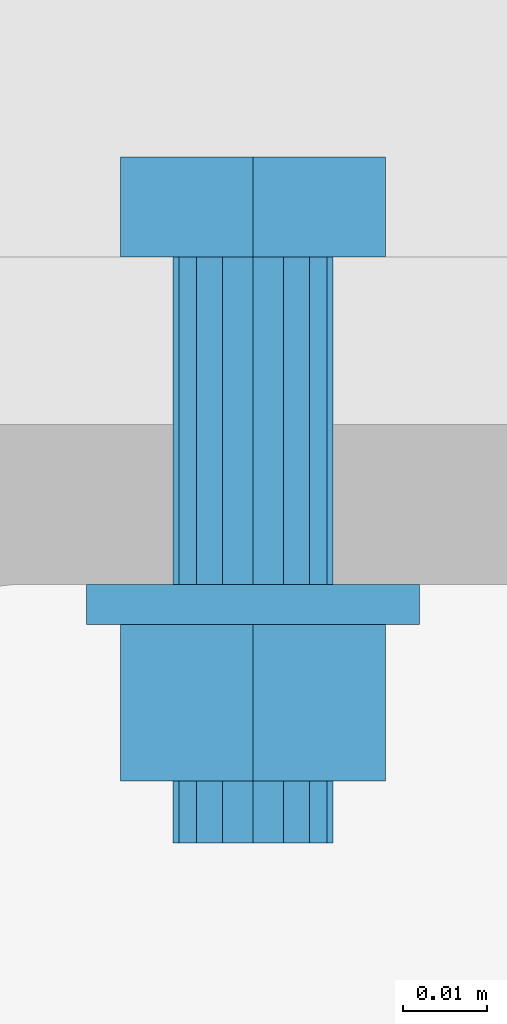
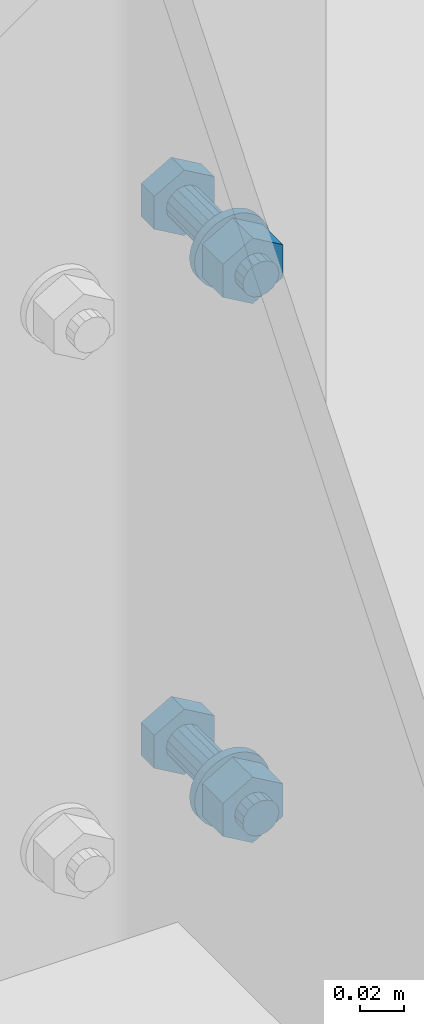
# Not in any storey, part 23 of 51: 2 mechanical fasteners.
"""IFC4 model written with IfcOpenShell, lengths in feet."""

from ifc_helpers import new_model, entity, si_unit, converted_unit, direction, origin, origin_with_axes, place, context, project, spatial, faceted_brep, element, save


model = new_model("IFC4")

# Units and contexts
model_context = context("Model", 3, precision=0.0001, world=origin(), true_north=direction((6.123233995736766e-17, 1.0)))
ifc_project = project(units=[converted_unit("LENGTHUNIT", "FOOT", entity("IfcLengthMeasure", 0.3048), si_unit("LENGTHUNIT", "METRE"), dimensions=[1, 0, 0, 0, 0, 0, 0]), converted_unit("AREAUNIT", "SQUARE INCH", entity("IfcAreaMeasure", 0.0006451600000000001), si_unit("AREAUNIT", "SQUARE_METRE"), dimensions=[2, 0, 0, 0, 0, 0, 0]), converted_unit("PLANEANGLEUNIT", "DEGREE", entity("IfcPlaneAngleMeasure", 0.017453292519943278), si_unit("PLANEANGLEUNIT", "RADIAN"), dimensions=[0, 0, 0, 0, 0, 0, 0]), si_unit("VOLUMEUNIT", "CUBIC_METRE")], contexts=[model_context])

# Site
site_placement = place(None, origin())
site = spatial("IfcSite", under=ifc_project, at=site_placement, Name="Default", CompositionType="ELEMENT")

# Mechanical fasteners
mechanical_fastener_1_placement = place(site_placement, origin_with_axes())
element("IfcMechanicalFastener", 1, at=mechanical_fastener_1_placement, inside=site, ObjectType="Bolt#7", NominalDiameter=0.0625, NominalLength=0.22916666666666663, context=model_context, shape_type="Brep", body=[
    faceted_brep([(60.56029721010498, 6.28730066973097, 17.178057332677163), (60.56029721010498, 6.326363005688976, 17.178057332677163), (60.61216852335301, 6.326363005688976, 17.148109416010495), (60.61216852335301, 6.28730066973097, 17.148109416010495), (60.66403983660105, 6.326363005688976, 17.178057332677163), (60.66403983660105, 6.28730066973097, 17.178057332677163), (60.66403983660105, 6.326363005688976, 17.2379531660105), (60.66403983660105, 6.28730066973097, 17.2379531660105), (60.61216852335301, 6.326363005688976, 17.267901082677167), (60.61216852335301, 6.28730066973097, 17.267901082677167), (60.56029721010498, 6.326363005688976, 17.2379531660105), (60.56029721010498, 6.28730066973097, 17.2379531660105)], [[[0, 1, 2, 3]], [[3, 2, 4, 5]], [[5, 4, 6, 7]], [[7, 6, 8, 9]], [[9, 8, 10, 11]], [[11, 10, 1, 0]], [[4, 2, 1, 10, 8, 6]], [[0, 3, 5, 7, 9, 11]]]),
    faceted_brep([(60.64341852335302, 6.28730066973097, 17.20800524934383), (60.64341852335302, 6.159183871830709, 17.20800524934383), (60.64103975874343, 6.159183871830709, 17.196046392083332), (60.64103975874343, 6.28730066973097, 17.196046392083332), (60.63426561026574, 6.159183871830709, 17.185908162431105), (60.63426561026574, 6.28730066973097, 17.185908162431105), (60.624127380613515, 6.159183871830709, 17.17913401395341), (60.624127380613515, 6.28730066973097, 17.17913401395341), (60.61216852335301, 6.159183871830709, 17.17675524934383), (60.61216852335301, 6.28730066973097, 17.17675524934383), (60.60020966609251, 6.159183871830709, 17.17913401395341), (60.60020966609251, 6.28730066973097, 17.17913401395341), (60.59007143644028, 6.159183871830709, 17.185908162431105), (60.59007143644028, 6.28730066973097, 17.185908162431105), (60.583297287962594, 6.159183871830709, 17.196046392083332), (60.583297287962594, 6.28730066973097, 17.196046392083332), (60.58091852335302, 6.159183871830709, 17.20800524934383), (60.58091852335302, 6.28730066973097, 17.20800524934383), (60.583297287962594, 6.159183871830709, 17.21996410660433), (60.583297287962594, 6.28730066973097, 17.21996410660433), (60.59007143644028, 6.159183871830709, 17.23010233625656), (60.59007143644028, 6.28730066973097, 17.23010233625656), (60.60020966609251, 6.159183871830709, 17.236876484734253), (60.60020966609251, 6.28730066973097, 17.236876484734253), (60.61216852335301, 6.159183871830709, 17.23925524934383), (60.61216852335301, 6.28730066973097, 17.23925524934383), (60.624127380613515, 6.159183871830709, 17.236876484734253), (60.624127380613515, 6.28730066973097, 17.236876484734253), (60.63426561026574, 6.159183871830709, 17.23010233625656), (60.63426561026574, 6.28730066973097, 17.23010233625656), (60.64103975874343, 6.159183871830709, 17.21996410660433), (60.64103975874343, 6.28730066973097, 17.21996410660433)], [[[0, 1, 2, 3]], [[3, 2, 4, 5]], [[5, 4, 6, 7]], [[7, 6, 8, 9]], [[9, 8, 10, 11]], [[11, 10, 12, 13]], [[13, 12, 14, 15]], [[15, 14, 16, 17]], [[17, 16, 18, 19]], [[19, 18, 20, 21]], [[21, 20, 22, 23]], [[23, 22, 24, 25]], [[25, 24, 26, 27]], [[27, 26, 28, 29]], [[29, 28, 30, 31]], [[31, 30, 1, 0]], [[0, 3, 5, 7, 9, 11, 13, 15, 17, 19, 21, 23, 25, 27, 29, 31]], [[1, 30, 28, 26, 24, 22, 20, 18, 16, 14, 12, 10, 8, 6, 4, 2]]]),
    faceted_brep([(60.67727269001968, 6.159183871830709, 17.20800524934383), (60.67727269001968, 6.143558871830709, 17.20800524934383), (60.676021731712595, 6.143558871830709, 17.195304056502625), (60.676021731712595, 6.159183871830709, 17.195304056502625), (60.67231693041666, 6.143558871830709, 17.183090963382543), (60.67231693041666, 6.159183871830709, 17.183090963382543), (60.66630065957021, 6.143558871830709, 17.171835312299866), (60.66630065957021, 6.159183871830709, 17.171835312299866), (60.65820412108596, 6.143558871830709, 17.161969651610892), (60.65820412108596, 6.159183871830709, 17.161969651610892), (60.648338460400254, 6.143558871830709, 17.15387311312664), (60.648338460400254, 6.159183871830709, 17.15387311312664), (60.63708280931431, 6.143558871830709, 17.147856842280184), (60.63708280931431, 6.159183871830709, 17.147856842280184), (60.624869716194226, 6.143558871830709, 17.144152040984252), (60.624869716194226, 6.159183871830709, 17.144152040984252), (60.61216852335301, 6.143558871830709, 17.142901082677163), (60.61216852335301, 6.159183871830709, 17.142901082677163), (60.59946733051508, 6.143558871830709, 17.144152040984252), (60.59946733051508, 6.159183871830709, 17.144152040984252), (60.58725423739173, 6.143558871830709, 17.147856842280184), (60.58725423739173, 6.159183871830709, 17.147856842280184), (60.575998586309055, 6.143558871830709, 17.15387311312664), (60.575998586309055, 6.159183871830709, 17.15387311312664), (60.56613292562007, 6.143558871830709, 17.161969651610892), (60.56613292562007, 6.159183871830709, 17.161969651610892), (60.55803638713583, 6.143558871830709, 17.171835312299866), (60.55803638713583, 6.159183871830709, 17.171835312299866), (60.55202011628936, 6.143558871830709, 17.183090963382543), (60.55202011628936, 6.159183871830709, 17.183090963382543), (60.54831531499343, 6.143558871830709, 17.195304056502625), (60.54831531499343, 6.159183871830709, 17.195304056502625), (60.54706435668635, 6.143558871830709, 17.20800524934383), (60.54706435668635, 6.159183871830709, 17.20800524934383), (60.54831531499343, 6.143558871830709, 17.220706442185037), (60.54831531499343, 6.159183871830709, 17.220706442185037), (60.55202011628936, 6.143558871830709, 17.23291953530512), (60.55202011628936, 6.159183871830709, 17.23291953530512), (60.55803638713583, 6.143558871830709, 17.244175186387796), (60.55803638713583, 6.159183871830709, 17.244175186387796), (60.56613292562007, 6.143558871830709, 17.254040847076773), (60.56613292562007, 6.159183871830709, 17.254040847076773), (60.575998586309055, 6.143558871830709, 17.262137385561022), (60.575998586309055, 6.159183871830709, 17.262137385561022), (60.58725423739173, 6.143558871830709, 17.268153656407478), (60.58725423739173, 6.159183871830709, 17.268153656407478), (60.59946733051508, 6.143558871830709, 17.271858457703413), (60.59946733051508, 6.159183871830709, 17.271858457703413), (60.61216852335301, 6.143558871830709, 17.2731094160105), (60.61216852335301, 6.159183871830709, 17.2731094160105), (60.624869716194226, 6.143558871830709, 17.271858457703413), (60.624869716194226, 6.159183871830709, 17.271858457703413), (60.63708280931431, 6.143558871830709, 17.268153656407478), (60.63708280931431, 6.159183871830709, 17.268153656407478), (60.648338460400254, 6.143558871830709, 17.262137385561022), (60.648338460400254, 6.159183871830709, 17.262137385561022), (60.65820412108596, 6.143558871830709, 17.254040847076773), (60.65820412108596, 6.159183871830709, 17.254040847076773), (60.66630065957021, 6.143558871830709, 17.244175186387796), (60.66630065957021, 6.159183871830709, 17.244175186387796), (60.67231693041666, 6.143558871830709, 17.23291953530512), (60.67231693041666, 6.159183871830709, 17.23291953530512), (60.676021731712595, 6.143558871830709, 17.220706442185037), (60.676021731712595, 6.159183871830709, 17.220706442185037)], [[[0, 1, 2, 3]], [[3, 2, 4, 5]], [[5, 4, 6, 7]], [[7, 6, 8, 9]], [[9, 8, 10, 11]], [[11, 10, 12, 13]], [[13, 12, 14, 15]], [[15, 14, 16, 17]], [[17, 16, 18, 19]], [[19, 18, 20, 21]], [[21, 20, 22, 23]], [[23, 22, 24, 25]], [[25, 24, 26, 27]], [[27, 26, 28, 29]], [[29, 28, 30, 31]], [[31, 30, 32, 33]], [[33, 32, 34, 35]], [[35, 34, 36, 37]], [[37, 36, 38, 39]], [[39, 38, 40, 41]], [[41, 40, 42, 43]], [[43, 42, 44, 45]], [[45, 44, 46, 47]], [[47, 46, 48, 49]], [[49, 48, 50, 51]], [[51, 50, 52, 53]], [[53, 52, 54, 55]], [[55, 54, 56, 57]], [[57, 56, 58, 59]], [[59, 58, 60, 61]], [[61, 60, 62, 63]], [[63, 62, 1, 0]], [[0, 3, 5, 7, 9, 11, 13, 15, 17, 19, 21, 23, 25, 27, 29, 31, 33, 35, 37, 39, 41, 43, 45, 47, 49, 51, 53, 55, 57, 59, 61, 63]], [[1, 62, 60, 58, 56, 54, 52, 50, 48, 46, 44, 42, 40, 38, 36, 34, 32, 30, 28, 26, 24, 22, 20, 18, 16, 14, 12, 10, 8, 6, 4, 2]]]),
    faceted_brep([(60.56029721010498, 6.082361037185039, 17.178057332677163), (60.56029721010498, 6.143558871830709, 17.178057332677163), (60.61216852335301, 6.143558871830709, 17.148109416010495), (60.61216852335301, 6.082361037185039, 17.148109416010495), (60.66403983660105, 6.143558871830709, 17.178057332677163), (60.66403983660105, 6.082361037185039, 17.178057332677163), (60.66403983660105, 6.143558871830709, 17.2379531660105), (60.66403983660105, 6.082361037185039, 17.2379531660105), (60.61216852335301, 6.143558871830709, 17.267901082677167), (60.61216852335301, 6.082361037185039, 17.267901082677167), (60.56029721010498, 6.143558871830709, 17.2379531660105), (60.56029721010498, 6.082361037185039, 17.2379531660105)], [[[0, 1, 2, 3]], [[3, 2, 4, 5]], [[5, 4, 6, 7]], [[7, 6, 8, 9]], [[9, 8, 10, 11]], [[11, 10, 1, 0]], [[4, 2, 1, 10, 8, 6]], [[0, 3, 5, 7, 9, 11]]]),
    faceted_brep([(60.64341852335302, 6.082361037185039, 17.20800524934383), (60.64341852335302, 6.058134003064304, 17.20800524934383), (60.64103975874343, 6.058134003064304, 17.196046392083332), (60.64103975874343, 6.082361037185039, 17.196046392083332), (60.63426561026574, 6.058134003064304, 17.185908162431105), (60.63426561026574, 6.082361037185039, 17.185908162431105), (60.624127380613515, 6.058134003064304, 17.17913401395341), (60.624127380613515, 6.082361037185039, 17.17913401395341), (60.61216852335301, 6.058134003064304, 17.17675524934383), (60.61216852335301, 6.082361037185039, 17.17675524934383), (60.60020966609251, 6.058134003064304, 17.17913401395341), (60.60020966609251, 6.082361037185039, 17.17913401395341), (60.59007143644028, 6.058134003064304, 17.185908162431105), (60.59007143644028, 6.082361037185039, 17.185908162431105), (60.583297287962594, 6.058134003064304, 17.196046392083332), (60.583297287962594, 6.082361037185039, 17.196046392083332), (60.58091852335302, 6.058134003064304, 17.20800524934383), (60.58091852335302, 6.082361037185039, 17.20800524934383), (60.583297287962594, 6.058134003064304, 17.21996410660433), (60.583297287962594, 6.082361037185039, 17.21996410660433), (60.59007143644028, 6.058134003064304, 17.23010233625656), (60.59007143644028, 6.082361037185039, 17.23010233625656), (60.60020966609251, 6.058134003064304, 17.236876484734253), (60.60020966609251, 6.082361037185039, 17.236876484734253), (60.61216852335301, 6.058134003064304, 17.23925524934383), (60.61216852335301, 6.082361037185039, 17.23925524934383), (60.624127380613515, 6.058134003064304, 17.236876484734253), (60.624127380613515, 6.082361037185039, 17.236876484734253), (60.63426561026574, 6.058134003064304, 17.23010233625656), (60.63426561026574, 6.082361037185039, 17.23010233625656), (60.64103975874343, 6.058134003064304, 17.21996410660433), (60.64103975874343, 6.082361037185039, 17.21996410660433)], [[[0, 1, 2, 3]], [[3, 2, 4, 5]], [[5, 4, 6, 7]], [[7, 6, 8, 9]], [[9, 8, 10, 11]], [[11, 10, 12, 13]], [[13, 12, 14, 15]], [[15, 14, 16, 17]], [[17, 16, 18, 19]], [[19, 18, 20, 21]], [[21, 20, 22, 23]], [[23, 22, 24, 25]], [[25, 24, 26, 27]], [[27, 26, 28, 29]], [[29, 28, 30, 31]], [[31, 30, 1, 0]], [[0, 3, 5, 7, 9, 11, 13, 15, 17, 19, 21, 23, 25, 27, 29, 31]], [[1, 30, 28, 26, 24, 22, 20, 18, 16, 14, 12, 10, 8, 6, 4, 2]]]),
])
mechanical_fastener_2_placement = place(site_placement, origin_with_axes())
element("IfcMechanicalFastener", 2, at=mechanical_fastener_2_placement, inside=site, ObjectType="Bolt#8", NominalDiameter=0.0625, NominalLength=0.22916666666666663, context=model_context, shape_type="Brep", body=[
    faceted_brep([(60.56029721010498, 6.28730066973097, 16.193805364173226), (60.56029721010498, 6.326363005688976, 16.193805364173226), (60.61216852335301, 6.326363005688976, 16.163857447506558), (60.61216852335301, 6.28730066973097, 16.163857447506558), (60.66403983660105, 6.326363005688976, 16.193805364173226), (60.66403983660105, 6.28730066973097, 16.193805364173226), (60.66403983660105, 6.326363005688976, 16.25370119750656), (60.66403983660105, 6.28730066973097, 16.25370119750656), (60.61216852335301, 6.326363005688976, 16.28364911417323), (60.61216852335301, 6.28730066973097, 16.28364911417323), (60.56029721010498, 6.326363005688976, 16.25370119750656), (60.56029721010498, 6.28730066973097, 16.25370119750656)], [[[0, 1, 2, 3]], [[3, 2, 4, 5]], [[5, 4, 6, 7]], [[7, 6, 8, 9]], [[9, 8, 10, 11]], [[11, 10, 1, 0]], [[4, 2, 1, 10, 8, 6]], [[0, 3, 5, 7, 9, 11]]]),
    faceted_brep([(60.64341852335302, 6.28730066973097, 16.223753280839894), (60.64341852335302, 6.159183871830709, 16.223753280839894), (60.64103975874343, 6.159183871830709, 16.211794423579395), (60.64103975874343, 6.28730066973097, 16.211794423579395), (60.63426561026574, 6.159183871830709, 16.201656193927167), (60.63426561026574, 6.28730066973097, 16.201656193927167), (60.624127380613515, 6.159183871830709, 16.19488204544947), (60.624127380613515, 6.28730066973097, 16.19488204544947), (60.61216852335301, 6.159183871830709, 16.192503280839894), (60.61216852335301, 6.28730066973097, 16.192503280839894), (60.60020966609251, 6.159183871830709, 16.19488204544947), (60.60020966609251, 6.28730066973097, 16.19488204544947), (60.59007143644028, 6.159183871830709, 16.201656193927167), (60.59007143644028, 6.28730066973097, 16.201656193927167), (60.583297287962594, 6.159183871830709, 16.211794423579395), (60.583297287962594, 6.28730066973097, 16.211794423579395), (60.58091852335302, 6.159183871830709, 16.223753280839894), (60.58091852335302, 6.28730066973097, 16.223753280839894), (60.583297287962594, 6.159183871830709, 16.235712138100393), (60.583297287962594, 6.28730066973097, 16.235712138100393), (60.59007143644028, 6.159183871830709, 16.245850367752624), (60.59007143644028, 6.28730066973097, 16.245850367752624), (60.60020966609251, 6.159183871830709, 16.252624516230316), (60.60020966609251, 6.28730066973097, 16.252624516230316), (60.61216852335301, 6.159183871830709, 16.255003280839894), (60.61216852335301, 6.28730066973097, 16.255003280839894), (60.624127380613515, 6.159183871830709, 16.252624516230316), (60.624127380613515, 6.28730066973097, 16.252624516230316), (60.63426561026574, 6.159183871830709, 16.245850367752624), (60.63426561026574, 6.28730066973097, 16.245850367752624), (60.64103975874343, 6.159183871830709, 16.235712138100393), (60.64103975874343, 6.28730066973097, 16.235712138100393)], [[[0, 1, 2, 3]], [[3, 2, 4, 5]], [[5, 4, 6, 7]], [[7, 6, 8, 9]], [[9, 8, 10, 11]], [[11, 10, 12, 13]], [[13, 12, 14, 15]], [[15, 14, 16, 17]], [[17, 16, 18, 19]], [[19, 18, 20, 21]], [[21, 20, 22, 23]], [[23, 22, 24, 25]], [[25, 24, 26, 27]], [[27, 26, 28, 29]], [[29, 28, 30, 31]], [[31, 30, 1, 0]], [[0, 3, 5, 7, 9, 11, 13, 15, 17, 19, 21, 23, 25, 27, 29, 31]], [[1, 30, 28, 26, 24, 22, 20, 18, 16, 14, 12, 10, 8, 6, 4, 2]]]),
    faceted_brep([(60.67727269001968, 6.159183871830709, 16.223753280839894), (60.67727269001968, 6.143558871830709, 16.223753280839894), (60.676021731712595, 6.143558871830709, 16.211052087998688), (60.676021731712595, 6.159183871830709, 16.211052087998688), (60.67231693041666, 6.143558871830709, 16.198838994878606), (60.67231693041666, 6.159183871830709, 16.198838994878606), (60.66630065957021, 6.143558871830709, 16.18758334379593), (60.66630065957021, 6.159183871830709, 16.18758334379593), (60.65820412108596, 6.143558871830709, 16.177717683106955), (60.65820412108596, 6.159183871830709, 16.177717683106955), (60.648338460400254, 6.143558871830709, 16.169621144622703), (60.648338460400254, 6.159183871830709, 16.169621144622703), (60.63708280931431, 6.143558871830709, 16.163604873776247), (60.63708280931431, 6.159183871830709, 16.163604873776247), (60.624869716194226, 6.143558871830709, 16.159900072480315), (60.624869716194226, 6.159183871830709, 16.159900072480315), (60.61216852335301, 6.143558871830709, 16.158649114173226), (60.61216852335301, 6.159183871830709, 16.158649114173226), (60.59946733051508, 6.143558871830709, 16.159900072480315), (60.59946733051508, 6.159183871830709, 16.159900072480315), (60.58725423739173, 6.143558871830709, 16.163604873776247), (60.58725423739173, 6.159183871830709, 16.163604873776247), (60.575998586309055, 6.143558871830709, 16.169621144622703), (60.575998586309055, 6.159183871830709, 16.169621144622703), (60.56613292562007, 6.143558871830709, 16.177717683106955), (60.56613292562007, 6.159183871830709, 16.177717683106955), (60.55803638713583, 6.143558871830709, 16.18758334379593), (60.55803638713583, 6.159183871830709, 16.18758334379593), (60.55202011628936, 6.143558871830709, 16.198838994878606), (60.55202011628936, 6.159183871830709, 16.198838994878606), (60.54831531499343, 6.143558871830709, 16.211052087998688), (60.54831531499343, 6.159183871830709, 16.211052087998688), (60.54706435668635, 6.143558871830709, 16.223753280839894), (60.54706435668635, 6.159183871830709, 16.223753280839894), (60.54831531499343, 6.143558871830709, 16.2364544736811), (60.54831531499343, 6.159183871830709, 16.2364544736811), (60.55202011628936, 6.143558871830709, 16.24866756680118), (60.55202011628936, 6.159183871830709, 16.24866756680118), (60.55803638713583, 6.143558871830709, 16.25992321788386), (60.55803638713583, 6.159183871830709, 16.25992321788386), (60.56613292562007, 6.143558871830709, 16.269788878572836), (60.56613292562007, 6.159183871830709, 16.269788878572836), (60.575998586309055, 6.143558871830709, 16.277885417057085), (60.575998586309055, 6.159183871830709, 16.277885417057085), (60.58725423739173, 6.143558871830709, 16.28390168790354), (60.58725423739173, 6.159183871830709, 16.28390168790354), (60.59946733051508, 6.143558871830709, 16.287606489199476), (60.59946733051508, 6.159183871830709, 16.287606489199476), (60.61216852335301, 6.143558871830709, 16.28885744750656), (60.61216852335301, 6.159183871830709, 16.28885744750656), (60.624869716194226, 6.143558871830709, 16.287606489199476), (60.624869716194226, 6.159183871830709, 16.287606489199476), (60.63708280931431, 6.143558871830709, 16.28390168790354), (60.63708280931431, 6.159183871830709, 16.28390168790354), (60.648338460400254, 6.143558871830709, 16.277885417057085), (60.648338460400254, 6.159183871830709, 16.277885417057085), (60.65820412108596, 6.143558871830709, 16.269788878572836), (60.65820412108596, 6.159183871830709, 16.269788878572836), (60.66630065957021, 6.143558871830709, 16.25992321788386), (60.66630065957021, 6.159183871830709, 16.25992321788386), (60.67231693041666, 6.143558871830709, 16.24866756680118), (60.67231693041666, 6.159183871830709, 16.24866756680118), (60.676021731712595, 6.143558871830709, 16.2364544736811), (60.676021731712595, 6.159183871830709, 16.2364544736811)], [[[0, 1, 2, 3]], [[3, 2, 4, 5]], [[5, 4, 6, 7]], [[7, 6, 8, 9]], [[9, 8, 10, 11]], [[11, 10, 12, 13]], [[13, 12, 14, 15]], [[15, 14, 16, 17]], [[17, 16, 18, 19]], [[19, 18, 20, 21]], [[21, 20, 22, 23]], [[23, 22, 24, 25]], [[25, 24, 26, 27]], [[27, 26, 28, 29]], [[29, 28, 30, 31]], [[31, 30, 32, 33]], [[33, 32, 34, 35]], [[35, 34, 36, 37]], [[37, 36, 38, 39]], [[39, 38, 40, 41]], [[41, 40, 42, 43]], [[43, 42, 44, 45]], [[45, 44, 46, 47]], [[47, 46, 48, 49]], [[49, 48, 50, 51]], [[51, 50, 52, 53]], [[53, 52, 54, 55]], [[55, 54, 56, 57]], [[57, 56, 58, 59]], [[59, 58, 60, 61]], [[61, 60, 62, 63]], [[63, 62, 1, 0]], [[0, 3, 5, 7, 9, 11, 13, 15, 17, 19, 21, 23, 25, 27, 29, 31, 33, 35, 37, 39, 41, 43, 45, 47, 49, 51, 53, 55, 57, 59, 61, 63]], [[1, 62, 60, 58, 56, 54, 52, 50, 48, 46, 44, 42, 40, 38, 36, 34, 32, 30, 28, 26, 24, 22, 20, 18, 16, 14, 12, 10, 8, 6, 4, 2]]]),
    faceted_brep([(60.56029721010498, 6.082361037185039, 16.193805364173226), (60.56029721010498, 6.143558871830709, 16.193805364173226), (60.61216852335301, 6.143558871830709, 16.163857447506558), (60.61216852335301, 6.082361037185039, 16.163857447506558), (60.66403983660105, 6.143558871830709, 16.193805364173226), (60.66403983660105, 6.082361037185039, 16.193805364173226), (60.66403983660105, 6.143558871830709, 16.25370119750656), (60.66403983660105, 6.082361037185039, 16.25370119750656), (60.61216852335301, 6.143558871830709, 16.28364911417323), (60.61216852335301, 6.082361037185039, 16.28364911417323), (60.56029721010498, 6.143558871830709, 16.25370119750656), (60.56029721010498, 6.082361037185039, 16.25370119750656)], [[[0, 1, 2, 3]], [[3, 2, 4, 5]], [[5, 4, 6, 7]], [[7, 6, 8, 9]], [[9, 8, 10, 11]], [[11, 10, 1, 0]], [[4, 2, 1, 10, 8, 6]], [[0, 3, 5, 7, 9, 11]]]),
    faceted_brep([(60.64341852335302, 6.082361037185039, 16.223753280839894), (60.64341852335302, 6.058134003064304, 16.223753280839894), (60.64103975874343, 6.058134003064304, 16.211794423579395), (60.64103975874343, 6.082361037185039, 16.211794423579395), (60.63426561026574, 6.058134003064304, 16.201656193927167), (60.63426561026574, 6.082361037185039, 16.201656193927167), (60.624127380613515, 6.058134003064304, 16.19488204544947), (60.624127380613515, 6.082361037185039, 16.19488204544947), (60.61216852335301, 6.058134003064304, 16.192503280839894), (60.61216852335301, 6.082361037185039, 16.192503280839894), (60.60020966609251, 6.058134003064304, 16.19488204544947), (60.60020966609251, 6.082361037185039, 16.19488204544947), (60.59007143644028, 6.058134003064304, 16.201656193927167), (60.59007143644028, 6.082361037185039, 16.201656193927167), (60.583297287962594, 6.058134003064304, 16.211794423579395), (60.583297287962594, 6.082361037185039, 16.211794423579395), (60.58091852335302, 6.058134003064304, 16.223753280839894), (60.58091852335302, 6.082361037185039, 16.223753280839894), (60.583297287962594, 6.058134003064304, 16.235712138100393), (60.583297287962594, 6.082361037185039, 16.235712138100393), (60.59007143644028, 6.058134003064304, 16.245850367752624), (60.59007143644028, 6.082361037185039, 16.245850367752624), (60.60020966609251, 6.058134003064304, 16.252624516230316), (60.60020966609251, 6.082361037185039, 16.252624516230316), (60.61216852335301, 6.058134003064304, 16.255003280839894), (60.61216852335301, 6.082361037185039, 16.255003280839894), (60.624127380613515, 6.058134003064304, 16.252624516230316), (60.624127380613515, 6.082361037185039, 16.252624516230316), (60.63426561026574, 6.058134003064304, 16.245850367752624), (60.63426561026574, 6.082361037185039, 16.245850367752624), (60.64103975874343, 6.058134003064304, 16.235712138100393), (60.64103975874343, 6.082361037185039, 16.235712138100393)], [[[0, 1, 2, 3]], [[3, 2, 4, 5]], [[5, 4, 6, 7]], [[7, 6, 8, 9]], [[9, 8, 10, 11]], [[11, 10, 12, 13]], [[13, 12, 14, 15]], [[15, 14, 16, 17]], [[17, 16, 18, 19]], [[19, 18, 20, 21]], [[21, 20, 22, 23]], [[23, 22, 24, 25]], [[25, 24, 26, 27]], [[27, 26, 28, 29]], [[29, 28, 30, 31]], [[31, 30, 1, 0]], [[0, 3, 5, 7, 9, 11, 13, 15, 17, 19, 21, 23, 25, 27, 29, 31]], [[1, 30, 28, 26, 24, 22, 20, 18, 16, 14, 12, 10, 8, 6, 4, 2]]]),
])

save(model, "model.ifc")
